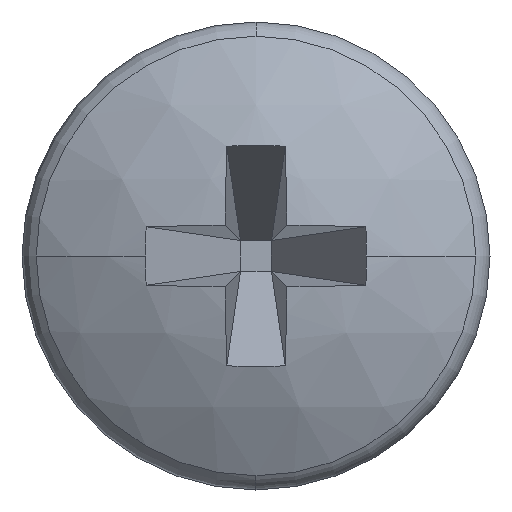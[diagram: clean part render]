
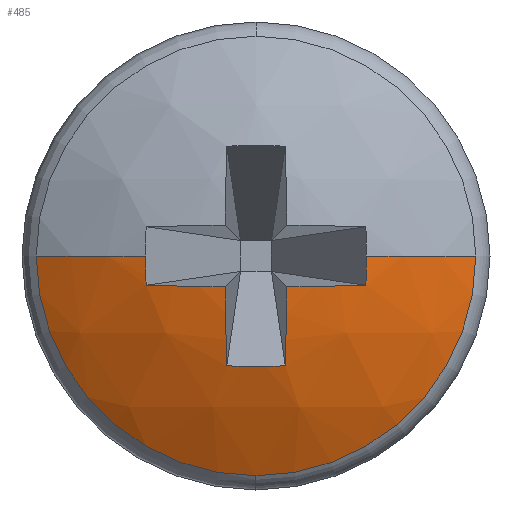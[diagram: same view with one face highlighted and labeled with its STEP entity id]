
A CAD part, left-side view. The second image highlights one B-rep face of the part: STEP entity #485.
In plain terms, the highlighted spherical face has radius 5 mm.
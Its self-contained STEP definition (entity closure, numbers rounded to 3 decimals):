
#15 = EDGE_CURVE ( 'NONE', #341, #284, #122, .T. ) ;
#21 = AXIS2_PLACEMENT_3D ( 'NONE', #252, #237, #359 ) ;
#24 = DIRECTION ( 'NONE',  ( 0., 0., -1. ) ) ;
#26 = DIRECTION ( 'NONE',  ( 0., 0., 1. ) ) ;
#27 = EDGE_LOOP ( 'NONE', ( #713, #57, #172, #70, #342, #398, #447, #408, #136, #146, #350 ) ) ;
#28 = CARTESIAN_POINT ( 'NONE',  ( 4.984, 0., 0.154 ) ) ;
#42 = DIRECTION ( 'NONE',  ( 0.584, 0.812, 0. ) ) ;
#57 = ORIENTED_EDGE ( 'NONE', *, *, #691, .T. ) ;
#64 = CARTESIAN_POINT ( 'NONE',  ( 0.189, -1.314, -0.35 ) ) ;
#70 = ORIENTED_EDGE ( 'NONE', *, *, #657, .T. ) ;
#71 = CARTESIAN_POINT ( 'NONE',  ( 0.747, 2.629, 0. ) ) ;
#72 = EDGE_CURVE ( 'NONE', #553, #487, #378, .T. ) ;
#73 = VERTEX_POINT ( 'NONE', #411 ) ;
#74 = FACE_OUTER_BOUND ( 'NONE', #27, .T. ) ;
#81 = CARTESIAN_POINT ( 'NONE',  ( 3.984, 0., 1.414 ) ) ;
#82 = EDGE_CURVE ( 'NONE', #702, #276, #118, .T. ) ;
#108 = EDGE_CURVE ( 'NONE', #702, #73, #178, .T. ) ;
#118 = CIRCLE ( 'NONE', #525, 4.998 ) ;
#122 = CIRCLE ( 'NONE', #21, 5. ) ;
#123 = EDGE_CURVE ( 'NONE', #231, #73, #213, .T. ) ;
#127 = CARTESIAN_POINT ( 'NONE',  ( 0.747, 0., -2.629 ) ) ;
#135 = CARTESIAN_POINT ( 'NONE',  ( 0.747, 0., 0. ) ) ;
#136 = ORIENTED_EDGE ( 'NONE', *, *, #320, .F. ) ;
#138 = CARTESIAN_POINT ( 'NONE',  ( 3.984, 1.414, 0. ) ) ;
#142 = AXIS2_PLACEMENT_3D ( 'NONE', #589, #143, #703 ) ;
#143 = DIRECTION ( 'NONE',  ( 0., 0., 1. ) ) ;
#146 = ORIENTED_EDGE ( 'NONE', *, *, #639, .T. ) ;
#152 = AXIS2_PLACEMENT_3D ( 'NONE', #197, #42, #367 ) ;
#172 = ORIENTED_EDGE ( 'NONE', *, *, #15, .T. ) ;
#178 = CIRCLE ( 'NONE', #440, 4.687 ) ;
#180 = DIRECTION ( 'NONE',  ( 0.584, 0., -0.812 ) ) ;
#182 = DIRECTION ( 'NONE',  ( -0.105, 0.995, 0. ) ) ;
#189 = CIRCLE ( 'NONE', #428, 4.998 ) ;
#197 = CARTESIAN_POINT ( 'NONE',  ( 3.984, -1.414, 0. ) ) ;
#207 = DIRECTION ( 'NONE',  ( -1., 0., 0. ) ) ;
#213 = CIRCLE ( 'NONE', #461, 4.998 ) ;
#225 = DIRECTION ( 'NONE',  ( 0.995, 0., 0.105 ) ) ;
#231 = VERTEX_POINT ( 'NONE', #530 ) ;
#237 = DIRECTION ( 'NONE',  ( 0., 0., -1. ) ) ;
#239 = CARTESIAN_POINT ( 'NONE',  ( 5., 0., 0. ) ) ;
#241 = CIRCLE ( 'NONE', #334, 2.629 ) ;
#252 = CARTESIAN_POINT ( 'NONE',  ( 5., 0., 0. ) ) ;
#263 = CIRCLE ( 'NONE', #640, 4.687 ) ;
#276 = VERTEX_POINT ( 'NONE', #594 ) ;
#284 = VERTEX_POINT ( 'NONE', #330 ) ;
#294 = DIRECTION ( 'NONE',  ( -0.105, -0.995, 0. ) ) ;
#301 = DIRECTION ( 'NONE',  ( -0.995, -0.105, 0. ) ) ;
#312 = DIRECTION ( 'NONE',  ( 0., 0., 1. ) ) ;
#319 = AXIS2_PLACEMENT_3D ( 'NONE', #135, #362, #26 ) ;
#320 = EDGE_CURVE ( 'NONE', #494, #231, #189, .T. ) ;
#330 = CARTESIAN_POINT ( 'NONE',  ( 0.178, -1.322, 0. ) ) ;
#334 = AXIS2_PLACEMENT_3D ( 'NONE', #474, #207, #312 ) ;
#341 = VERTEX_POINT ( 'NONE', #493 ) ;
#342 = ORIENTED_EDGE ( 'NONE', *, *, #478, .F. ) ;
#348 = AXIS2_PLACEMENT_3D ( 'NONE', #239, #24, #570 ) ;
#350 = ORIENTED_EDGE ( 'NONE', *, *, #677, .F. ) ;
#358 = CIRCLE ( 'NONE', #142, 5. ) ;
#359 = DIRECTION ( 'NONE',  ( 0., 1., 0. ) ) ;
#362 = DIRECTION ( 'NONE',  ( -1., 0., 0. ) ) ;
#367 = DIRECTION ( 'NONE',  ( -0.812, 0.584, 0. ) ) ;
#378 = CIRCLE ( 'NONE', #319, 2.629 ) ;
#398 = ORIENTED_EDGE ( 'NONE', *, *, #82, .F. ) ;
#400 = CARTESIAN_POINT ( 'NONE',  ( 0.178, 1.322, 0. ) ) ;
#408 = ORIENTED_EDGE ( 'NONE', *, *, #123, .F. ) ;
#409 = DIRECTION ( 'NONE',  ( -0.812, 0., -0.584 ) ) ;
#411 = CARTESIAN_POINT ( 'NONE',  ( 0.189, 0.35, -1.314 ) ) ;
#412 = VERTEX_POINT ( 'NONE', #64 ) ;
#413 = SPHERICAL_SURFACE ( 'NONE', #348, 5. ) ;
#423 = DIRECTION ( 'NONE',  ( 0.584, -0.812, 0. ) ) ;
#428 = AXIS2_PLACEMENT_3D ( 'NONE', #707, #443, #225 ) ;
#433 = CARTESIAN_POINT ( 'NONE',  ( 0.189, -0.35, -1.314 ) ) ;
#439 = VERTEX_POINT ( 'NONE', #400 ) ;
#440 = AXIS2_PLACEMENT_3D ( 'NONE', #81, #180, #409 ) ;
#443 = DIRECTION ( 'NONE',  ( -0.105, 0., 0.995 ) ) ;
#447 = ORIENTED_EDGE ( 'NONE', *, *, #108, .T. ) ;
#461 = AXIS2_PLACEMENT_3D ( 'NONE', #521, #294, #579 ) ;
#471 = CARTESIAN_POINT ( 'NONE',  ( 0.189, 1.314, -0.35 ) ) ;
#474 = CARTESIAN_POINT ( 'NONE',  ( 0.747, 0., 0. ) ) ;
#478 = EDGE_CURVE ( 'NONE', #276, #412, #630, .T. ) ;
#485 = ADVANCED_FACE ( 'NONE', ( #74 ), #413, .T. ) ;
#487 = VERTEX_POINT ( 'NONE', #127 ) ;
#491 = AXIS2_PLACEMENT_3D ( 'NONE', #28, #631, #520 ) ;
#493 = CARTESIAN_POINT ( 'NONE',  ( 0.747, -2.629, 0. ) ) ;
#494 = VERTEX_POINT ( 'NONE', #471 ) ;
#520 = DIRECTION ( 'NONE',  ( 0.995, 0., 0.105 ) ) ;
#521 = CARTESIAN_POINT ( 'NONE',  ( 4.984, -0.154, 0. ) ) ;
#525 = AXIS2_PLACEMENT_3D ( 'NONE', #576, #182, #301 ) ;
#530 = CARTESIAN_POINT ( 'NONE',  ( 0.027, 0.367, -0.367 ) ) ;
#553 = VERTEX_POINT ( 'NONE', #71 ) ;
#570 = DIRECTION ( 'NONE',  ( 0., 1., 0. ) ) ;
#574 = CIRCLE ( 'NONE', #152, 4.687 ) ;
#576 = CARTESIAN_POINT ( 'NONE',  ( 4.984, 0.154, 0. ) ) ;
#579 = DIRECTION ( 'NONE',  ( 0.995, -0.105, 0. ) ) ;
#589 = CARTESIAN_POINT ( 'NONE',  ( 5., 0., 0. ) ) ;
#594 = CARTESIAN_POINT ( 'NONE',  ( 0.027, -0.367, -0.367 ) ) ;
#630 = CIRCLE ( 'NONE', #491, 4.998 ) ;
#631 = DIRECTION ( 'NONE',  ( -0.105, 0., 0.995 ) ) ;
#639 = EDGE_CURVE ( 'NONE', #494, #439, #574, .T. ) ;
#640 = AXIS2_PLACEMENT_3D ( 'NONE', #138, #423, #698 ) ;
#657 = EDGE_CURVE ( 'NONE', #284, #412, #263, .T. ) ;
#677 = EDGE_CURVE ( 'NONE', #553, #439, #358, .T. ) ;
#691 = EDGE_CURVE ( 'NONE', #487, #341, #241, .T. ) ;
#698 = DIRECTION ( 'NONE',  ( 0.812, 0.584, 0. ) ) ;
#702 = VERTEX_POINT ( 'NONE', #433 ) ;
#703 = DIRECTION ( 'NONE',  ( 1., 0., 0. ) ) ;
#707 = CARTESIAN_POINT ( 'NONE',  ( 4.984, 0., 0.154 ) ) ;
#713 = ORIENTED_EDGE ( 'NONE', *, *, #72, .T. ) ;
